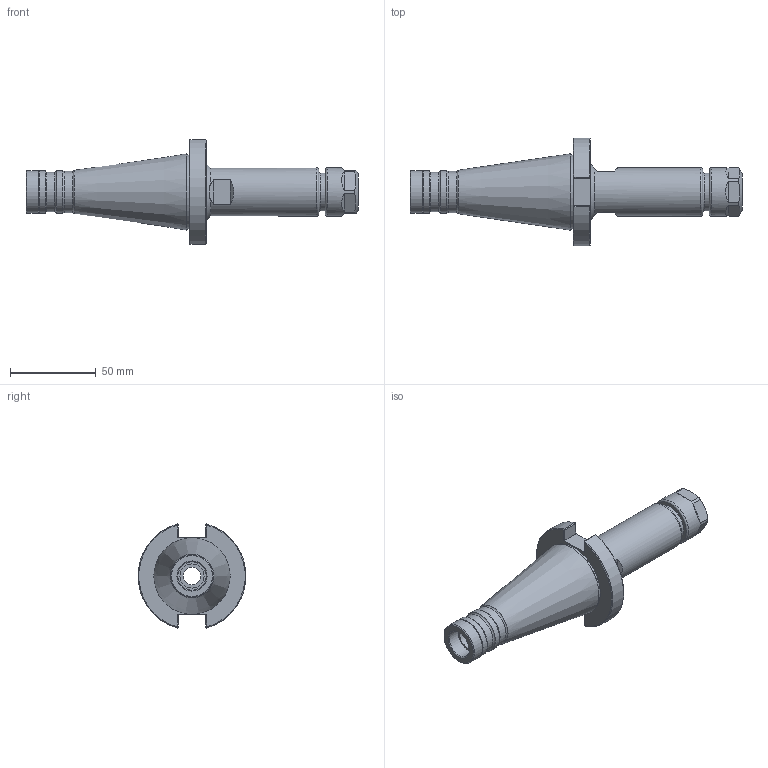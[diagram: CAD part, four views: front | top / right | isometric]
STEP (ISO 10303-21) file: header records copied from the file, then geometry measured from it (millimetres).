
FILE_DESCRIPTION(/* description */ (''),/* implementation_level */ '2;1');
FILE_NAME(/* name */ 'ISO40-ER16-100.stp',/* time_stamp */ '2025-12-08T14:20:23+03:00',/* author */ ('User'),/* organization */ (''),/* preprocessor_version */ 'ST-DEVELOPER v19.2',/* originating_system */ 'Autodesk Inventor 2024',/* authorisation */ '');
FILE_SCHEMA (('AUTOMOTIVE_DESIGN { 1 0 10303 214 3 1 1 }'));
Length unit declared in the file: millimetre
Products named in the file (3): ISO40-ER32-100; ISO40-ER32-100_1; гайка ER16
Assembly tree (2 placements, depth 2):
  ISO40-ER32-100
    ISO40-ER32-100_1
    гайка ER16
Bounding box: 193.4 x 62.76 x 60.64 mm (x, y, z)
Volume: 139013.2 mm3; surface area: 33508.8 mm2
Topology: 2 solids, 2 shells, 103 faces, 254 edges, 166 vertices
Faces by surface type: plane 53, cylinder 19, cone 15, bspline 8, torus 8
Full cylindrical faces by diameter (mm): 10 x1, 11.222 x1, 12.7 x2, 14 x1, 16.5 x1, 17 x1, 20.376 x1, 22 x1, 23 x1, 24 x1, 25 x3, 28 x2, 43.4 x1
Entity records: 3445 total; most frequent: CARTESIAN_POINT 918, ORIENTED_EDGE 508, DIRECTION 494, EDGE_CURVE 254, AXIS2_PLACEMENT_3D 199, VERTEX_POINT 166, EDGE_LOOP 118, FACE_OUTER_BOUND 103
